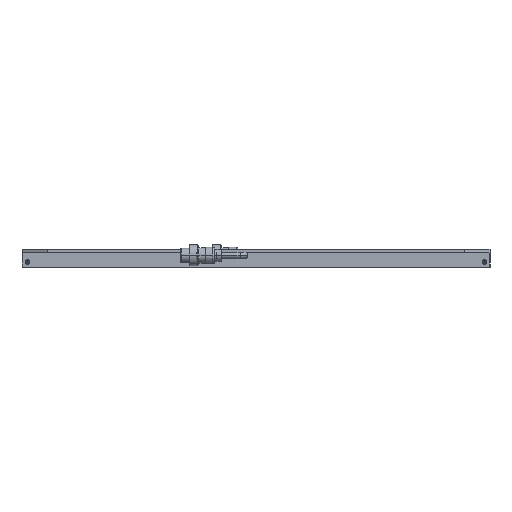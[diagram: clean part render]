
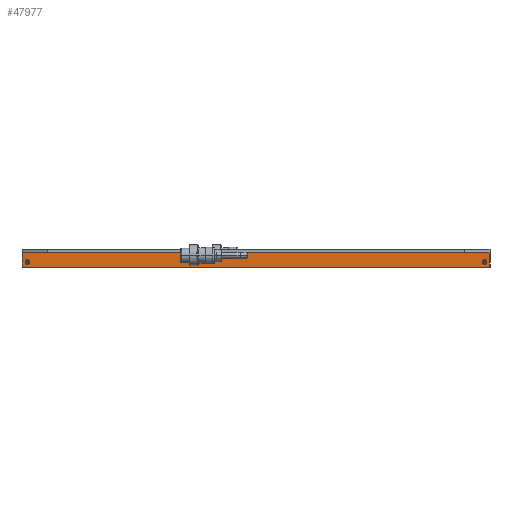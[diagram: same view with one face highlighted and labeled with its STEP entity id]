
A CAD part, front view. The second image highlights one B-rep face of the part: STEP entity #47977.
In plain terms, the highlighted planar face has unit normal (0, -1, 0).
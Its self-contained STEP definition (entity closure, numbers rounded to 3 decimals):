
#12297=DIRECTION('',(-1.,0.,0.));
#12298=VECTOR('',#12297,336.05);
#12299=CARTESIAN_POINT('',(324.8,-325.,0.));
#12300=LINE('',#12299,#12298);
#12329=DIRECTION('',(-1.,0.,0.));
#12330=VECTOR('',#12329,303.95);
#12331=CARTESIAN_POINT('',(-20.85,-325.,0.));
#12332=LINE('',#12331,#12330);
#13383=DIRECTION('',(-1.,0.,0.));
#13384=VECTOR('',#13383,649.6);
#13385=CARTESIAN_POINT('',(324.8,-325.,-19.8));
#13386=LINE('',#13385,#13384);
#13403=DIRECTION('',(0.,0.,-1.));
#13404=VECTOR('',#13403,19.8);
#13405=CARTESIAN_POINT('',(324.8,-325.,0.));
#13406=LINE('',#13405,#13404);
#13407=CARTESIAN_POINT('',(-317.5,-325.,-13.));
#13408=DIRECTION('',(0.,1.,0.));
#13409=DIRECTION('',(0.,0.,1.));
#13410=AXIS2_PLACEMENT_3D('',#13407,#13408,#13409);
#13412=CARTESIAN_POINT('',(-317.5,-325.,-13.));
#13413=DIRECTION('',(0.,1.,0.));
#13414=DIRECTION('',(0.,0.,-1.));
#13415=AXIS2_PLACEMENT_3D('',#13412,#13413,#13414);
#13417=CARTESIAN_POINT('',(317.5,-325.,-13.));
#13418=DIRECTION('',(0.,1.,0.));
#13419=DIRECTION('',(0.,0.,-1.));
#13420=AXIS2_PLACEMENT_3D('',#13417,#13418,#13419);
#13422=CARTESIAN_POINT('',(317.5,-325.,-13.));
#13423=DIRECTION('',(0.,1.,0.));
#13424=DIRECTION('',(0.,0.,1.));
#13425=AXIS2_PLACEMENT_3D('',#13422,#13423,#13424);
#13427=CARTESIAN_POINT('',(-16.05,-325.,-3.5));
#13428=DIRECTION('',(0.,1.,0.));
#13429=DIRECTION('',(1.,0.,0.));
#13430=AXIS2_PLACEMENT_3D('',#13427,#13428,#13429);
#14000=DIRECTION('',(0.,0.,1.));
#14001=VECTOR('',#14000,19.8);
#14002=CARTESIAN_POINT('',(-324.8,-325.,-19.8));
#14003=LINE('',#14002,#14001);
#14008=DIRECTION('',(0.,0.,-1.));
#14009=VECTOR('',#14008,3.5);
#14010=CARTESIAN_POINT('',(-20.85,-325.,0.));
#14011=LINE('',#14010,#14009);
#14069=DIRECTION('',(0.,0.,1.));
#14070=VECTOR('',#14069,3.5);
#14071=CARTESIAN_POINT('',(-11.25,-325.,-3.5));
#14072=LINE('',#14071,#14070);
#22931=CARTESIAN_POINT('',(-11.25,-325.,-3.5));
#22932=CARTESIAN_POINT('',(-20.85,-325.,-3.5));
#22933=VERTEX_POINT('',#22931);
#22934=VERTEX_POINT('',#22932);
#22935=CARTESIAN_POINT('',(324.8,-325.,-19.8));
#22936=CARTESIAN_POINT('',(-324.8,-325.,-19.8));
#22937=VERTEX_POINT('',#22935);
#22938=VERTEX_POINT('',#22936);
#22939=CARTESIAN_POINT('',(317.5,-325.,-9.75));
#22940=CARTESIAN_POINT('',(317.5,-325.,-16.25));
#22941=VERTEX_POINT('',#22939);
#22942=VERTEX_POINT('',#22940);
#22943=CARTESIAN_POINT('',(-317.5,-325.,-16.25));
#22944=CARTESIAN_POINT('',(-317.5,-325.,-9.75));
#22945=VERTEX_POINT('',#22943);
#22946=VERTEX_POINT('',#22944);
#27305=CARTESIAN_POINT('',(324.8,-325.,0.));
#27306=CARTESIAN_POINT('',(-11.25,-325.,0.));
#27307=VERTEX_POINT('',#27305);
#27308=VERTEX_POINT('',#27306);
#27309=CARTESIAN_POINT('',(-20.85,-325.,0.));
#27310=CARTESIAN_POINT('',(-324.8,-325.,0.));
#27311=VERTEX_POINT('',#27309);
#27312=VERTEX_POINT('',#27310);
#47946=CARTESIAN_POINT('',(-325.,-325.,-20.));
#47947=DIRECTION('',(0.,-1.,0.));
#47948=DIRECTION('',(0.,0.,1.));
#47949=AXIS2_PLACEMENT_3D('',#47946,#47947,#47948);
#47950=PLANE('',#47949);
#47951=ORIENTED_EDGE('',*,*,#47934,.T.);
#47952=ORIENTED_EDGE('',*,*,#47890,.T.);
#47954=ORIENTED_EDGE('',*,*,#47953,.T.);
#47955=ORIENTED_EDGE('',*,*,#46283,.F.);
#47957=ORIENTED_EDGE('',*,*,#47956,.T.);
#47959=ORIENTED_EDGE('',*,*,#47958,.F.);
#47961=ORIENTED_EDGE('',*,*,#47960,.T.);
#47962=ORIENTED_EDGE('',*,*,#46229,.F.);
#47963=EDGE_LOOP('',(#47951,#47952,#47954,#47955,#47957,#47959,#47961,#47962));
#47964=FACE_OUTER_BOUND('',#47963,.F.);
#47966=ORIENTED_EDGE('',*,*,#47965,.F.);
#47968=ORIENTED_EDGE('',*,*,#47967,.F.);
#47969=EDGE_LOOP('',(#47966,#47968));
#47970=FACE_BOUND('',#47969,.F.);
#47972=ORIENTED_EDGE('',*,*,#47971,.F.);
#47974=ORIENTED_EDGE('',*,*,#47973,.F.);
#47975=EDGE_LOOP('',(#47972,#47974));
#47976=FACE_BOUND('',#47975,.F.);
#13411=CIRCLE('',#13410,3.25);
#13416=CIRCLE('',#13415,3.25);
#13421=CIRCLE('',#13420,3.25);
#13426=CIRCLE('',#13425,3.25);
#13431=CIRCLE('',#13430,4.8);
#46229=EDGE_CURVE('',#27307,#27308,#12300,.T.);
#46283=EDGE_CURVE('',#27311,#27312,#12332,.T.);
#47890=EDGE_CURVE('',#22937,#22938,#13386,.T.);
#47934=EDGE_CURVE('',#27307,#22937,#13406,.T.);
#47953=EDGE_CURVE('',#22938,#27312,#14003,.T.);
#47956=EDGE_CURVE('',#27311,#22934,#14011,.T.);
#47958=EDGE_CURVE('',#22933,#22934,#13431,.T.);
#47960=EDGE_CURVE('',#22933,#27308,#14072,.T.);
#47965=EDGE_CURVE('',#22942,#22941,#13421,.T.);
#47967=EDGE_CURVE('',#22941,#22942,#13426,.T.);
#47971=EDGE_CURVE('',#22946,#22945,#13411,.T.);
#47973=EDGE_CURVE('',#22945,#22946,#13416,.T.);
#47977=ADVANCED_FACE('',(#47964,#47970,#47976),#47950,.T.);
